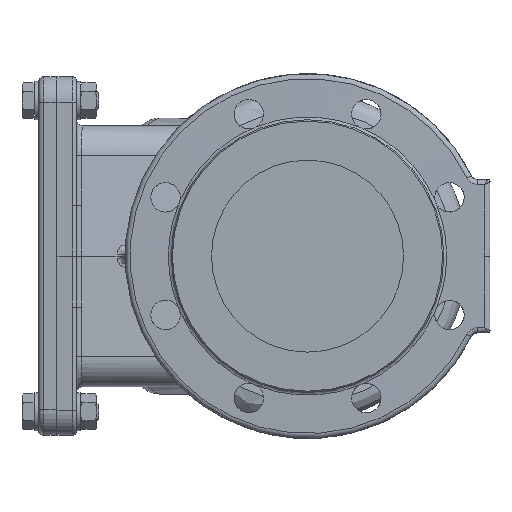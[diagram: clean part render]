
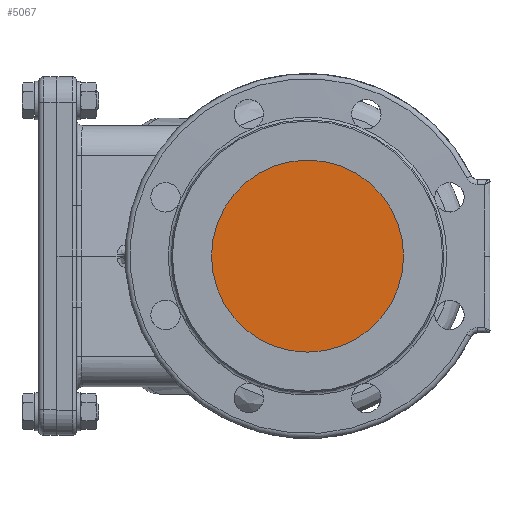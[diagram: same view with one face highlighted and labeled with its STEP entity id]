
A CAD part, left-side view. The second image highlights one B-rep face of the part: STEP entity #5067.
In plain terms, the highlighted planar face has unit normal (-1, 0, 0).
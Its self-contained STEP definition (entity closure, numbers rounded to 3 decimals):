
#5067=ADVANCED_FACE('',(#13457),#13459,.T.);
#13457=FACE_BOUND('',#13458,.T.);
#13458=EDGE_LOOP('',(#17529));
#13459=PLANE('',#13460);
#13460=AXIS2_PLACEMENT_3D('',#13461,#13462,#13463);
#13461=CARTESIAN_POINT('',(10.,0.,0.));
#13462=DIRECTION('',(-1.,0.,0.));
#13463=DIRECTION('',(0.,0.,1.));
#17529=ORIENTED_EDGE('',*,*,#20044,.T.);
#20044=EDGE_CURVE('',#22885,#22885,#22886,.T.);
#22885=VERTEX_POINT('',#64916);
#22886=CIRCLE('',#64917,75.);
#64916=CARTESIAN_POINT('',(10.,75.,0.));
#64917=AXIS2_PLACEMENT_3D('',#64918,#64919,#64920);
#64918=CARTESIAN_POINT('',(10.,0.,0.));
#64919=DIRECTION('',(-1.,0.,0.));
#64920=DIRECTION('',(0.,0.,-1.));
